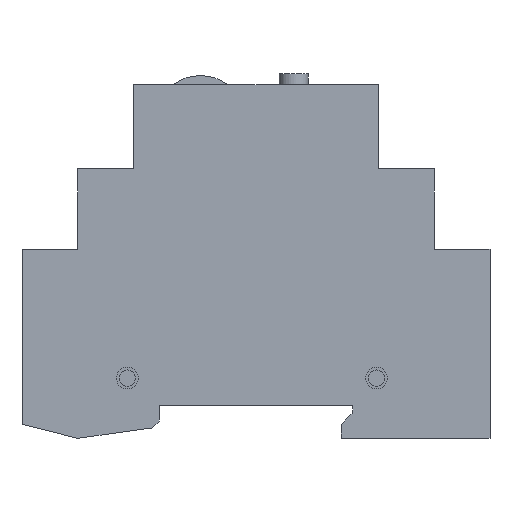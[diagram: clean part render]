
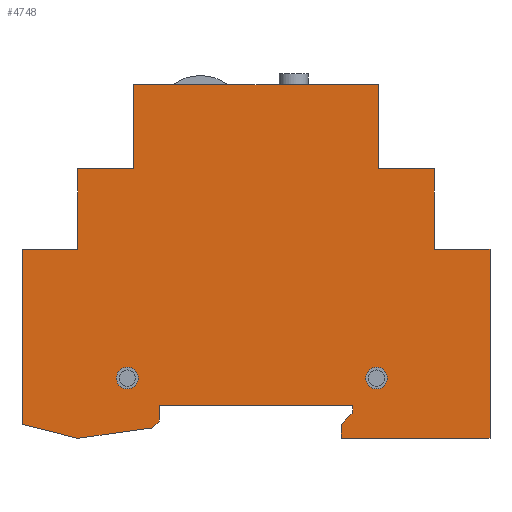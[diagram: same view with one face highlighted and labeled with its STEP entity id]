
A CAD part, left-side view. The second image highlights one B-rep face of the part: STEP entity #4748.
In plain terms, the highlighted planar face has unit normal (-1, 0, 0).
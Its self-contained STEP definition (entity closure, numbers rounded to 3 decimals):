
#243=LINE('',#6533,#706);
#247=LINE('',#6541,#710);
#250=LINE('',#6547,#713);
#253=LINE('',#6553,#716);
#256=LINE('',#6559,#719);
#259=LINE('',#6565,#722);
#262=LINE('',#6571,#725);
#265=LINE('',#6577,#728);
#268=LINE('',#6583,#731);
#271=LINE('',#6589,#734);
#274=LINE('',#6595,#737);
#277=LINE('',#6601,#740);
#280=LINE('',#6607,#743);
#283=LINE('',#6613,#746);
#286=LINE('',#6619,#749);
#289=LINE('',#6625,#752);
#292=LINE('',#6631,#755);
#295=LINE('',#6637,#758);
#298=LINE('',#6643,#761);
#301=LINE('',#6649,#764);
#304=LINE('',#6654,#767);
#706=VECTOR('',#5449,10.);
#710=VECTOR('',#5455,10.);
#713=VECTOR('',#5460,10.);
#716=VECTOR('',#5465,10.);
#719=VECTOR('',#5470,10.);
#722=VECTOR('',#5475,10.);
#725=VECTOR('',#5480,10.);
#728=VECTOR('',#5485,10.);
#731=VECTOR('',#5490,10.);
#734=VECTOR('',#5495,10.);
#737=VECTOR('',#5500,10.);
#740=VECTOR('',#5505,10.);
#743=VECTOR('',#5510,10.);
#746=VECTOR('',#5515,10.);
#749=VECTOR('',#5520,10.);
#752=VECTOR('',#5525,10.);
#755=VECTOR('',#5530,10.);
#758=VECTOR('',#5535,10.);
#761=VECTOR('',#5540,10.);
#764=VECTOR('',#5545,10.);
#767=VECTOR('',#5550,10.);
#1197=PLANE('',#5077);
#1378=FACE_BOUND('',#1807,.T.);
#1379=FACE_BOUND('',#1808,.T.);
#1489=FACE_OUTER_BOUND('',#1806,.T.);
#1806=EDGE_LOOP('',(#3504,#3505,#3506,#3507,#3508,#3509,#3510,#3511,#3512,
#3513,#3514,#3515,#3516,#3517,#3518,#3519,#3520,#3521,#3522,#3523,#3524));
#1807=EDGE_LOOP('',(#3525));
#1808=EDGE_LOOP('',(#3526));
#2126=CIRCLE('',#5049,2.);
#2128=CIRCLE('',#5053,2.);
#2221=VERTEX_POINT('',#6521);
#2223=VERTEX_POINT('',#6527);
#2224=VERTEX_POINT('',#6531);
#2225=VERTEX_POINT('',#6532);
#2228=VERTEX_POINT('',#6540);
#2230=VERTEX_POINT('',#6546);
#2232=VERTEX_POINT('',#6552);
#2234=VERTEX_POINT('',#6558);
#2236=VERTEX_POINT('',#6564);
#2238=VERTEX_POINT('',#6570);
#2240=VERTEX_POINT('',#6576);
#2242=VERTEX_POINT('',#6582);
#2244=VERTEX_POINT('',#6588);
#2246=VERTEX_POINT('',#6594);
#2248=VERTEX_POINT('',#6600);
#2250=VERTEX_POINT('',#6606);
#2252=VERTEX_POINT('',#6612);
#2254=VERTEX_POINT('',#6618);
#2256=VERTEX_POINT('',#6624);
#2258=VERTEX_POINT('',#6630);
#2260=VERTEX_POINT('',#6636);
#2262=VERTEX_POINT('',#6642);
#2264=VERTEX_POINT('',#6648);
#2694=EDGE_CURVE('',#2221,#2221,#2126,.T.);
#2696=EDGE_CURVE('',#2223,#2223,#2128,.T.);
#2697=EDGE_CURVE('',#2224,#2225,#243,.T.);
#2701=EDGE_CURVE('',#2228,#2224,#247,.T.);
#2704=EDGE_CURVE('',#2230,#2228,#250,.T.);
#2707=EDGE_CURVE('',#2232,#2230,#253,.T.);
#2710=EDGE_CURVE('',#2234,#2232,#256,.T.);
#2713=EDGE_CURVE('',#2236,#2234,#259,.T.);
#2716=EDGE_CURVE('',#2238,#2236,#262,.T.);
#2719=EDGE_CURVE('',#2240,#2238,#265,.T.);
#2722=EDGE_CURVE('',#2242,#2240,#268,.T.);
#2725=EDGE_CURVE('',#2244,#2242,#271,.T.);
#2728=EDGE_CURVE('',#2246,#2244,#274,.T.);
#2731=EDGE_CURVE('',#2248,#2246,#277,.T.);
#2734=EDGE_CURVE('',#2250,#2248,#280,.T.);
#2737=EDGE_CURVE('',#2252,#2250,#283,.T.);
#2740=EDGE_CURVE('',#2254,#2252,#286,.T.);
#2743=EDGE_CURVE('',#2256,#2254,#289,.T.);
#2746=EDGE_CURVE('',#2258,#2256,#292,.T.);
#2749=EDGE_CURVE('',#2260,#2258,#295,.T.);
#2752=EDGE_CURVE('',#2262,#2260,#298,.T.);
#2755=EDGE_CURVE('',#2264,#2262,#301,.T.);
#2758=EDGE_CURVE('',#2225,#2264,#304,.T.);
#3504=ORIENTED_EDGE('',*,*,#2758,.F.);
#3505=ORIENTED_EDGE('',*,*,#2697,.F.);
#3506=ORIENTED_EDGE('',*,*,#2701,.F.);
#3507=ORIENTED_EDGE('',*,*,#2704,.F.);
#3508=ORIENTED_EDGE('',*,*,#2707,.F.);
#3509=ORIENTED_EDGE('',*,*,#2710,.F.);
#3510=ORIENTED_EDGE('',*,*,#2713,.F.);
#3511=ORIENTED_EDGE('',*,*,#2716,.F.);
#3512=ORIENTED_EDGE('',*,*,#2719,.F.);
#3513=ORIENTED_EDGE('',*,*,#2722,.F.);
#3514=ORIENTED_EDGE('',*,*,#2725,.F.);
#3515=ORIENTED_EDGE('',*,*,#2728,.F.);
#3516=ORIENTED_EDGE('',*,*,#2731,.F.);
#3517=ORIENTED_EDGE('',*,*,#2734,.F.);
#3518=ORIENTED_EDGE('',*,*,#2737,.F.);
#3519=ORIENTED_EDGE('',*,*,#2740,.F.);
#3520=ORIENTED_EDGE('',*,*,#2743,.F.);
#3521=ORIENTED_EDGE('',*,*,#2746,.F.);
#3522=ORIENTED_EDGE('',*,*,#2749,.F.);
#3523=ORIENTED_EDGE('',*,*,#2752,.F.);
#3524=ORIENTED_EDGE('',*,*,#2755,.F.);
#3525=ORIENTED_EDGE('',*,*,#2694,.T.);
#3526=ORIENTED_EDGE('',*,*,#2696,.T.);
#4748=ADVANCED_FACE('',(#1489,#1378,#1379),#1197,.F.);
#5049=AXIS2_PLACEMENT_3D('',#6522,#5435,#5436);
#5053=AXIS2_PLACEMENT_3D('',#6528,#5443,#5444);
#5077=AXIS2_PLACEMENT_3D('',#6657,#5554,#5555);
#5435=DIRECTION('center_axis',(1.,0.,0.));
#5436=DIRECTION('ref_axis',(0.,0.,-1.));
#5443=DIRECTION('center_axis',(1.,0.,0.));
#5444=DIRECTION('ref_axis',(0.,0.,-1.));
#5449=DIRECTION('',(0.,0.97,0.243));
#5455=DIRECTION('',(0.,0.99,-0.138));
#5460=DIRECTION('',(0.,0.707,-0.707));
#5465=DIRECTION('',(0.,0.,-1.));
#5470=DIRECTION('',(0.,1.,0.));
#5475=DIRECTION('',(0.,0.,1.));
#5480=DIRECTION('',(0.,-1.,0.));
#5485=DIRECTION('',(0.,-0.707,0.707));
#5490=DIRECTION('',(0.,0.,1.));
#5495=DIRECTION('',(0.,1.,0.));
#5500=DIRECTION('',(0.,0.,-1.));
#5505=DIRECTION('',(0.,-1.,0.));
#5510=DIRECTION('',(0.,0.,-1.));
#5515=DIRECTION('',(0.,-1.,0.));
#5520=DIRECTION('',(0.,0.,-1.));
#5525=DIRECTION('',(0.,-1.,0.));
#5530=DIRECTION('',(0.,0.,1.));
#5535=DIRECTION('',(0.,-1.,0.));
#5540=DIRECTION('',(0.,0.,1.));
#5545=DIRECTION('',(0.,-1.,0.));
#5550=DIRECTION('',(0.,0.,1.));
#5554=DIRECTION('center_axis',(1.,0.,0.));
#5555=DIRECTION('ref_axis',(0.,0.,-1.));
#6521=CARTESIAN_POINT('',(0.,28.481,-16.033));
#6522=CARTESIAN_POINT('Origin',(0.,28.481,-18.033));
#6527=CARTESIAN_POINT('',(0.,-17.327,-16.033));
#6528=CARTESIAN_POINT('Origin',(0.,-17.327,-18.033));
#6531=CARTESIAN_POINT('',(0.,37.579,-29.095));
#6532=CARTESIAN_POINT('',(0.,47.829,-26.53));
#6533=CARTESIAN_POINT('',(0.,37.579,-29.095));
#6540=CARTESIAN_POINT('',(0.,23.84,-27.176));
#6541=CARTESIAN_POINT('',(0.,23.84,-27.176));
#6546=CARTESIAN_POINT('',(0.,22.579,-25.916));
#6547=CARTESIAN_POINT('',(0.,22.579,-25.916));
#6552=CARTESIAN_POINT('',(0.,22.579,-23.092));
#6553=CARTESIAN_POINT('',(0.,22.579,-23.092));
#6558=CARTESIAN_POINT('',(0.,-12.921,-23.092));
#6559=CARTESIAN_POINT('',(0.,-12.921,-23.092));
#6564=CARTESIAN_POINT('',(0.,-12.921,-24.527));
#6565=CARTESIAN_POINT('',(0.,-12.921,-24.527));
#6570=CARTESIAN_POINT('',(0.,-12.823,-24.527));
#6571=CARTESIAN_POINT('',(0.,-12.823,-24.527));
#6576=CARTESIAN_POINT('',(0.,-10.823,-26.527));
#6577=CARTESIAN_POINT('',(0.,-10.823,-26.527));
#6582=CARTESIAN_POINT('',(0.,-10.823,-29.095));
#6583=CARTESIAN_POINT('',(0.,-10.823,-29.095));
#6588=CARTESIAN_POINT('',(0.,-38.171,-29.095));
#6589=CARTESIAN_POINT('',(0.,-38.171,-29.095));
#6594=CARTESIAN_POINT('',(0.,-38.171,5.658));
#6595=CARTESIAN_POINT('',(0.,-38.171,5.658));
#6600=CARTESIAN_POINT('',(0.,-27.921,5.658));
#6601=CARTESIAN_POINT('',(0.,-27.921,5.658));
#6606=CARTESIAN_POINT('',(0.,-27.921,20.405));
#6607=CARTESIAN_POINT('',(0.,-27.921,20.405));
#6612=CARTESIAN_POINT('',(0.,-17.671,20.405));
#6613=CARTESIAN_POINT('',(0.,-17.671,20.405));
#6618=CARTESIAN_POINT('',(0.,-17.671,35.905));
#6619=CARTESIAN_POINT('',(0.,-17.671,35.905));
#6624=CARTESIAN_POINT('',(0.,27.329,35.905));
#6625=CARTESIAN_POINT('',(0.,27.329,35.905));
#6630=CARTESIAN_POINT('',(0.,27.329,20.405));
#6631=CARTESIAN_POINT('',(0.,27.329,20.405));
#6636=CARTESIAN_POINT('',(0.,37.579,20.405));
#6637=CARTESIAN_POINT('',(0.,37.579,20.405));
#6642=CARTESIAN_POINT('',(0.,37.579,5.658));
#6643=CARTESIAN_POINT('',(0.,37.579,5.658));
#6648=CARTESIAN_POINT('',(0.,47.829,5.658));
#6649=CARTESIAN_POINT('',(0.,47.829,5.658));
#6654=CARTESIAN_POINT('',(0.,47.829,-26.53));
#6657=CARTESIAN_POINT('Origin',(0.,4.238,0.217));
